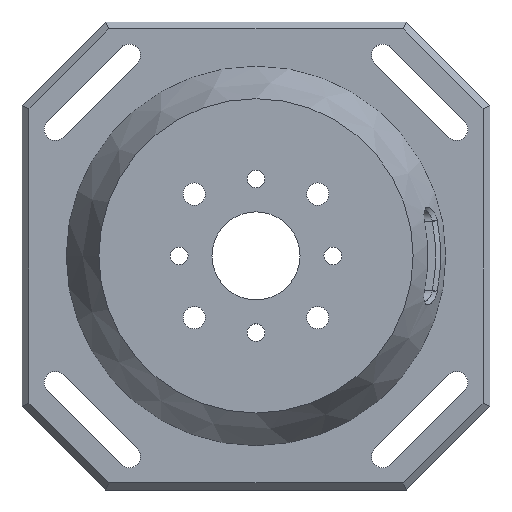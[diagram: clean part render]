
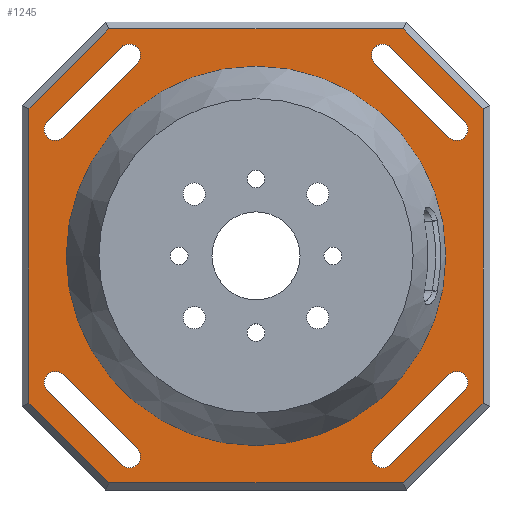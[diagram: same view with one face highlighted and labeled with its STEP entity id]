
A CAD part, top view. The second image highlights one B-rep face of the part: STEP entity #1245.
In plain terms, the highlighted planar face has unit normal (0, 0, 1).
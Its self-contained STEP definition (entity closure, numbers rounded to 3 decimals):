
#26=FACE_BOUND('',#269,.T.);
#27=FACE_BOUND('',#270,.T.);
#28=FACE_BOUND('',#271,.T.);
#29=FACE_BOUND('',#272,.T.);
#30=FACE_BOUND('',#273,.T.);
#60=PLANE('',#1340);
#99=CIRCLE('',#1300,27.163);
#118=CIRCLE('',#1341,1.6);
#119=CIRCLE('',#1342,1.6);
#120=CIRCLE('',#1343,1.6);
#121=CIRCLE('',#1344,1.6);
#122=CIRCLE('',#1345,1.6);
#123=CIRCLE('',#1346,1.6);
#124=CIRCLE('',#1347,1.6);
#125=CIRCLE('',#1348,1.6);
#188=FACE_OUTER_BOUND('',#268,.T.);
#268=EDGE_LOOP('',(#1023,#1024,#1025,#1026,#1027,#1028,#1029,#1030));
#269=EDGE_LOOP('',(#1031));
#270=EDGE_LOOP('',(#1032,#1033,#1034,#1035));
#271=EDGE_LOOP('',(#1036,#1037,#1038,#1039));
#272=EDGE_LOOP('',(#1040,#1041,#1042,#1043));
#273=EDGE_LOOP('',(#1044,#1045,#1046,#1047));
#369=LINE('',#2407,#474);
#373=LINE('',#2414,#478);
#376=LINE('',#2420,#481);
#379=LINE('',#2428,#484);
#381=LINE('',#2432,#486);
#385=LINE('',#2438,#490);
#386=LINE('',#2441,#491);
#389=LINE('',#2446,#494);
#400=LINE('',#2469,#505);
#401=LINE('',#2473,#506);
#402=LINE('',#2477,#507);
#403=LINE('',#2481,#508);
#404=LINE('',#2485,#509);
#405=LINE('',#2489,#510);
#406=LINE('',#2495,#511);
#407=LINE('',#2498,#512);
#474=VECTOR('',#1502,10.);
#478=VECTOR('',#1508,10.);
#481=VECTOR('',#1513,10.);
#484=VECTOR('',#1518,10.);
#486=VECTOR('',#1522,10.);
#490=VECTOR('',#1528,10.);
#491=VECTOR('',#1531,10.);
#494=VECTOR('',#1536,10.);
#505=VECTOR('',#1557,10.);
#506=VECTOR('',#1560,10.);
#507=VECTOR('',#1563,10.);
#508=VECTOR('',#1566,10.);
#509=VECTOR('',#1569,10.);
#510=VECTOR('',#1572,10.);
#511=VECTOR('',#1577,10.);
#512=VECTOR('',#1580,10.);
#573=VERTEX_POINT('',#2057);
#602=VERTEX_POINT('',#2404);
#603=VERTEX_POINT('',#2406);
#605=VERTEX_POINT('',#2412);
#607=VERTEX_POINT('',#2418);
#610=VERTEX_POINT('',#2425);
#611=VERTEX_POINT('',#2427);
#612=VERTEX_POINT('',#2431);
#614=VERTEX_POINT('',#2440);
#621=VERTEX_POINT('',#2467);
#622=VERTEX_POINT('',#2468);
#623=VERTEX_POINT('',#2470);
#624=VERTEX_POINT('',#2472);
#625=VERTEX_POINT('',#2475);
#626=VERTEX_POINT('',#2476);
#627=VERTEX_POINT('',#2478);
#628=VERTEX_POINT('',#2480);
#629=VERTEX_POINT('',#2483);
#630=VERTEX_POINT('',#2484);
#631=VERTEX_POINT('',#2486);
#632=VERTEX_POINT('',#2488);
#633=VERTEX_POINT('',#2491);
#634=VERTEX_POINT('',#2492);
#635=VERTEX_POINT('',#2494);
#636=VERTEX_POINT('',#2496);
#695=EDGE_CURVE('',#573,#573,#99,.T.);
#739=EDGE_CURVE('',#602,#603,#369,.T.);
#743=EDGE_CURVE('',#605,#602,#373,.T.);
#746=EDGE_CURVE('',#607,#605,#376,.T.);
#749=EDGE_CURVE('',#610,#611,#379,.T.);
#751=EDGE_CURVE('',#612,#610,#381,.T.);
#755=EDGE_CURVE('',#611,#607,#385,.T.);
#756=EDGE_CURVE('',#614,#612,#386,.T.);
#759=EDGE_CURVE('',#603,#614,#389,.T.);
#770=EDGE_CURVE('',#621,#622,#400,.T.);
#771=EDGE_CURVE('',#623,#621,#118,.T.);
#772=EDGE_CURVE('',#624,#623,#401,.T.);
#773=EDGE_CURVE('',#622,#624,#119,.T.);
#774=EDGE_CURVE('',#625,#626,#402,.T.);
#775=EDGE_CURVE('',#627,#625,#120,.T.);
#776=EDGE_CURVE('',#628,#627,#403,.T.);
#777=EDGE_CURVE('',#626,#628,#121,.T.);
#778=EDGE_CURVE('',#629,#630,#404,.T.);
#779=EDGE_CURVE('',#631,#629,#122,.T.);
#780=EDGE_CURVE('',#632,#631,#405,.T.);
#781=EDGE_CURVE('',#630,#632,#123,.T.);
#782=EDGE_CURVE('',#633,#634,#124,.T.);
#783=EDGE_CURVE('',#635,#633,#406,.T.);
#784=EDGE_CURVE('',#636,#635,#125,.T.);
#785=EDGE_CURVE('',#634,#636,#407,.T.);
#1023=ORIENTED_EDGE('',*,*,#749,.F.);
#1024=ORIENTED_EDGE('',*,*,#751,.F.);
#1025=ORIENTED_EDGE('',*,*,#756,.F.);
#1026=ORIENTED_EDGE('',*,*,#759,.F.);
#1027=ORIENTED_EDGE('',*,*,#739,.F.);
#1028=ORIENTED_EDGE('',*,*,#743,.F.);
#1029=ORIENTED_EDGE('',*,*,#746,.F.);
#1030=ORIENTED_EDGE('',*,*,#755,.F.);
#1031=ORIENTED_EDGE('',*,*,#695,.F.);
#1032=ORIENTED_EDGE('',*,*,#770,.F.);
#1033=ORIENTED_EDGE('',*,*,#771,.F.);
#1034=ORIENTED_EDGE('',*,*,#772,.F.);
#1035=ORIENTED_EDGE('',*,*,#773,.F.);
#1036=ORIENTED_EDGE('',*,*,#774,.F.);
#1037=ORIENTED_EDGE('',*,*,#775,.F.);
#1038=ORIENTED_EDGE('',*,*,#776,.F.);
#1039=ORIENTED_EDGE('',*,*,#777,.F.);
#1040=ORIENTED_EDGE('',*,*,#778,.F.);
#1041=ORIENTED_EDGE('',*,*,#779,.F.);
#1042=ORIENTED_EDGE('',*,*,#780,.F.);
#1043=ORIENTED_EDGE('',*,*,#781,.F.);
#1044=ORIENTED_EDGE('',*,*,#782,.F.);
#1045=ORIENTED_EDGE('',*,*,#783,.F.);
#1046=ORIENTED_EDGE('',*,*,#784,.F.);
#1047=ORIENTED_EDGE('',*,*,#785,.F.);
#1245=ADVANCED_FACE('',(#188,#26,#27,#28,#29,#30),#60,.F.);
#1300=AXIS2_PLACEMENT_3D('',#2058,#1428,#1429);
#1340=AXIS2_PLACEMENT_3D('',#2466,#1555,#1556);
#1341=AXIS2_PLACEMENT_3D('',#2471,#1558,#1559);
#1342=AXIS2_PLACEMENT_3D('',#2474,#1561,#1562);
#1343=AXIS2_PLACEMENT_3D('',#2479,#1564,#1565);
#1344=AXIS2_PLACEMENT_3D('',#2482,#1567,#1568);
#1345=AXIS2_PLACEMENT_3D('',#2487,#1570,#1571);
#1346=AXIS2_PLACEMENT_3D('',#2490,#1573,#1574);
#1347=AXIS2_PLACEMENT_3D('',#2493,#1575,#1576);
#1348=AXIS2_PLACEMENT_3D('',#2497,#1578,#1579);
#1428=DIRECTION('center_axis',(0.,0.,
1.));
#1429=DIRECTION('ref_axis',(1.,0.,0.));
#1502=DIRECTION('',(-1.,0.,0.));
#1508=DIRECTION('',(-0.707,-0.707,0.));
#1513=DIRECTION('',(0.,-1.,0.));
#1518=DIRECTION('',(1.,0.,0.));
#1522=DIRECTION('',(0.707,0.707,0.));
#1528=DIRECTION('',(0.707,-0.707,0.));
#1531=DIRECTION('',(0.,1.,0.));
#1536=DIRECTION('',(-0.707,0.707,0.));
#1555=DIRECTION('center_axis',(0.,0.,
-1.));
#1556=DIRECTION('ref_axis',(1.,0.,0.));
#1557=DIRECTION('',(0.707,-0.707,0.));
#1558=DIRECTION('center_axis',(0.,0.,
1.));
#1559=DIRECTION('ref_axis',(-0.707,-0.707,0.));
#1560=DIRECTION('',(-0.707,0.707,0.));
#1561=DIRECTION('center_axis',(0.,0.,
1.));
#1562=DIRECTION('ref_axis',(0.707,0.707,0.));
#1563=DIRECTION('',(0.707,0.707,0.));
#1564=DIRECTION('center_axis',(0.,0.,
1.));
#1565=DIRECTION('ref_axis',(0.707,-0.707,0.));
#1566=DIRECTION('',(-0.707,-0.707,0.));
#1567=DIRECTION('center_axis',(0.,0.,
1.));
#1568=DIRECTION('ref_axis',(-0.707,0.707,0.));
#1569=DIRECTION('',(-0.707,-0.707,0.));
#1570=DIRECTION('center_axis',(0.,0.,
1.));
#1571=DIRECTION('ref_axis',(-0.707,0.707,0.));
#1572=DIRECTION('',(0.707,0.707,0.));
#1573=DIRECTION('center_axis',(0.,0.,
1.));
#1574=DIRECTION('ref_axis',(0.707,-0.707,0.));
#1575=DIRECTION('center_axis',(0.,0.,
1.));
#1576=DIRECTION('ref_axis',(0.707,0.707,0.));
#1577=DIRECTION('',(0.707,-0.707,0.));
#1578=DIRECTION('center_axis',(0.,0.,
1.));
#1579=DIRECTION('ref_axis',(-0.707,-0.707,0.));
#1580=DIRECTION('',(-0.707,0.707,0.));
#2057=CARTESIAN_POINT('',(-27.163,0.,-10.));
#2058=CARTESIAN_POINT('Origin',(0.,0.,
-10.));
#2404=CARTESIAN_POINT('',(21.086,-32.5,-10.));
#2406=CARTESIAN_POINT('',(-21.086,-32.5,-10.));
#2407=CARTESIAN_POINT('',(16.75,-32.5,-10.));
#2412=CARTESIAN_POINT('',(32.5,-21.086,-10.));
#2414=CARTESIAN_POINT('',(26.793,-26.793,-10.));
#2418=CARTESIAN_POINT('',(32.5,21.086,-10.));
#2420=CARTESIAN_POINT('',(32.5,16.75,-10.));
#2425=CARTESIAN_POINT('',(-21.086,32.5,-10.));
#2427=CARTESIAN_POINT('',(21.086,32.5,-10.));
#2428=CARTESIAN_POINT('',(-16.75,32.5,-10.));
#2431=CARTESIAN_POINT('',(-32.5,21.086,-10.));
#2432=CARTESIAN_POINT('',(-26.793,26.793,-10.));
#2438=CARTESIAN_POINT('',(26.793,26.793,-10.));
#2440=CARTESIAN_POINT('',(-32.5,-21.086,-10.));
#2441=CARTESIAN_POINT('',(-32.5,-16.75,-10.));
#2446=CARTESIAN_POINT('',(-26.793,-26.793,-10.));
#2466=CARTESIAN_POINT('Origin',(0.,0.,
-10.));
#2467=CARTESIAN_POINT('',(-29.885,-19.278,-10.));
#2468=CARTESIAN_POINT('',(-19.278,-29.885,-10.));
#2469=CARTESIAN_POINT('',(-19.278,-29.885,-10.));
#2470=CARTESIAN_POINT('',(-27.622,-17.015,-10.));
#2471=CARTESIAN_POINT('Origin',(-28.753,-18.147,-10.));
#2472=CARTESIAN_POINT('',(-17.015,-27.622,-10.));
#2473=CARTESIAN_POINT('',(-27.622,-17.015,-10.));
#2474=CARTESIAN_POINT('Origin',(-18.147,-28.753,-10.));
#2475=CARTESIAN_POINT('',(19.278,-29.885,-10.));
#2476=CARTESIAN_POINT('',(29.885,-19.278,-10.));
#2477=CARTESIAN_POINT('',(29.885,-19.278,-10.));
#2478=CARTESIAN_POINT('',(17.015,-27.622,-10.));
#2479=CARTESIAN_POINT('Origin',(18.147,-28.753,-10.));
#2480=CARTESIAN_POINT('',(27.622,-17.015,-10.));
#2481=CARTESIAN_POINT('',(17.015,-27.622,-10.));
#2482=CARTESIAN_POINT('Origin',(28.753,-18.147,-10.));
#2483=CARTESIAN_POINT('',(-19.278,29.885,-10.));
#2484=CARTESIAN_POINT('',(-29.885,19.278,-10.));
#2485=CARTESIAN_POINT('',(-29.885,19.278,-10.));
#2486=CARTESIAN_POINT('',(-17.015,27.622,-10.));
#2487=CARTESIAN_POINT('Origin',(-18.147,28.753,-10.));
#2488=CARTESIAN_POINT('',(-27.622,17.015,-10.));
#2489=CARTESIAN_POINT('',(-17.015,27.622,-10.));
#2490=CARTESIAN_POINT('Origin',(-28.753,18.147,-10.));
#2491=CARTESIAN_POINT('',(27.622,17.015,-10.));
#2492=CARTESIAN_POINT('',(29.885,19.278,-10.));
#2493=CARTESIAN_POINT('Origin',(28.753,18.147,-10.));
#2494=CARTESIAN_POINT('',(17.015,27.622,-10.));
#2495=CARTESIAN_POINT('',(27.622,17.015,-10.));
#2496=CARTESIAN_POINT('',(19.278,29.885,-10.));
#2497=CARTESIAN_POINT('Origin',(18.147,28.753,-10.));
#2498=CARTESIAN_POINT('',(19.278,29.885,-10.));
